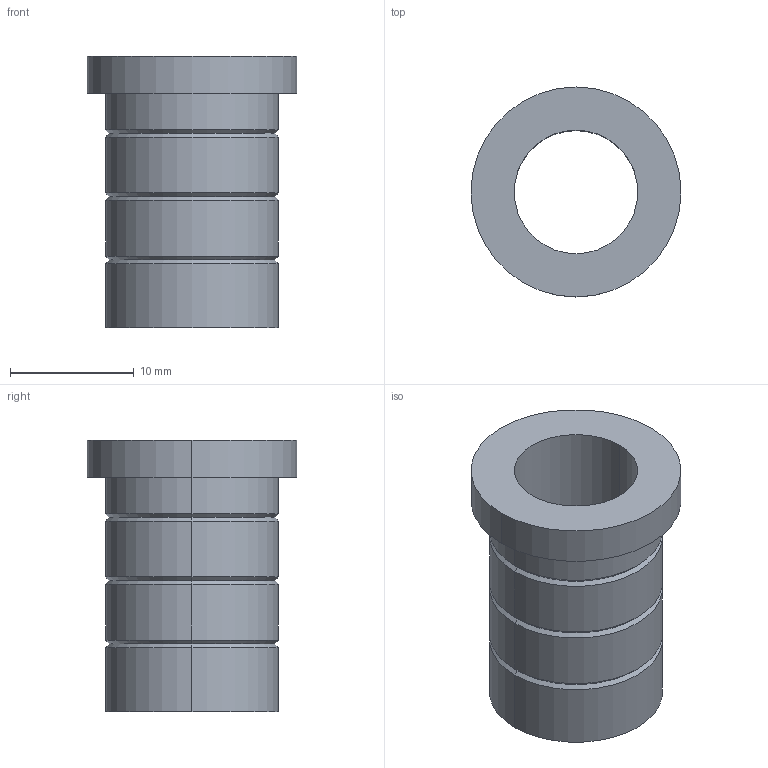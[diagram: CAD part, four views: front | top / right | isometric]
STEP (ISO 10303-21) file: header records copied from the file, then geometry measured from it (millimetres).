
FILE_DESCRIPTION(/* description */ (''),/* implementation_level */ '2;1');
FILE_NAME(/* name */ '3d_sgbt10-22_00013_r00.stp',/* time_stamp */ '2011-01-10T14:11:12+09:00',/* author */ ('MISUMI'),/* organization */ (''),/* preprocessor_version */ 'ST-DEVELOPER v11',/* originating_system */ 'UGS - NX 5.0',/* authorisation */ '');
FILE_SCHEMA (('CONFIG_CONTROL_DESIGN'));
Length unit declared in the file: millimetre
Products named in the file (1): 3d_sgbt10-22_00013_r00
Bounding box: 17 x 17 x 22 mm (x, y, z)
Volume: 1866.2 mm3; surface area: 2014.3 mm2
Topology: 1 solids, 1 shells, 27 faces, 54 edges, 30 vertices
Faces by surface type: cylinder 12, cone 12, plane 3
Entity records: 784 total; most frequent: DIRECTION 140, CARTESIAN_POINT 112, ORIENTED_EDGE 108, AXIS2_PLACEMENT_3D 58, EDGE_CURVE 54, EDGE_LOOP 30, VERTEX_POINT 30, CIRCLE 30
